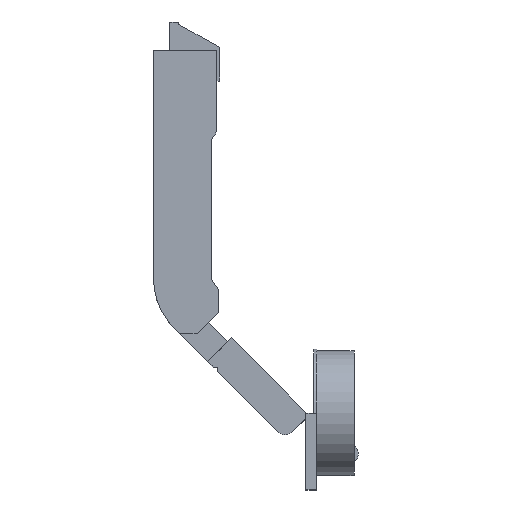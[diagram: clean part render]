
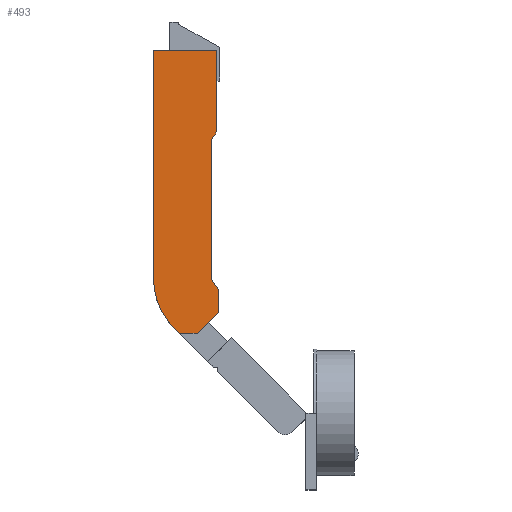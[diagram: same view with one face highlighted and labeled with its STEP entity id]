
A CAD part, top view. The second image highlights one B-rep face of the part: STEP entity #493.
In plain terms, the highlighted planar face has unit normal (0, 0, 1).
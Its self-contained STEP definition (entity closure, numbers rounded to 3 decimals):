
#26 = ORIENTED_EDGE ( 'NONE', *, *, #1369, .F. ) ;
#157 = DIRECTION ( 'NONE',  ( 0.574, -0.819, 0. ) ) ;
#172 = VERTEX_POINT ( 'NONE', #1278 ) ;
#188 = VERTEX_POINT ( 'NONE', #1128 ) ;
#195 = AXIS2_PLACEMENT_3D ( 'NONE', #836, #1638, #1988 ) ;
#204 = EDGE_CURVE ( 'NONE', #172, #1637, #1515, .T. ) ;
#210 = CARTESIAN_POINT ( 'NONE',  ( -14.942, 22.402, 9.15 ) ) ;
#253 = CARTESIAN_POINT ( 'NONE',  ( -6., 37.592, 9.15 ) ) ;
#293 = ORIENTED_EDGE ( 'NONE', *, *, #1250, .F. ) ;
#335 = EDGE_CURVE ( 'NONE', #1540, #674, #1185, .T. ) ;
#427 = CARTESIAN_POINT ( 'NONE',  ( -4.5, 101.894, 9.15 ) ) ;
#457 = EDGE_CURVE ( 'NONE', #615, #2274, #2706, .T. ) ;
#483 = ORIENTED_EDGE ( 'NONE', *, *, #1412, .F. ) ;
#493 = ADVANCED_FACE ( 'NONE', ( #840 ), #1328, .F. ) ;
#594 = DIRECTION ( 'NONE',  ( -0.707, 0.707, 0. ) ) ;
#599 = VERTEX_POINT ( 'NONE', #1784 ) ;
#606 = LINE ( 'NONE', #680, #2796 ) ;
#613 = DIRECTION ( 'NONE',  ( 0., -1., 0. ) ) ;
#615 = VERTEX_POINT ( 'NONE', #1802 ) ;
#625 = ORIENTED_EDGE ( 'NONE', *, *, #1379, .F. ) ;
#674 = VERTEX_POINT ( 'NONE', #852 ) ;
#680 = CARTESIAN_POINT ( 'NONE',  ( -9.992, 22.402, 9.15 ) ) ;
#691 = CARTESIAN_POINT ( 'NONE',  ( -6., 76.894, 9.15 ) ) ;
#768 = CARTESIAN_POINT ( 'NONE',  ( -4.01, 34.75, 9.15 ) ) ;
#807 = VERTEX_POINT ( 'NONE', #768 ) ;
#836 = CARTESIAN_POINT ( 'NONE',  ( -2.25, 37.994, 9.15 ) ) ;
#840 = FACE_OUTER_BOUND ( 'NONE', #2273, .T. ) ;
#852 = CARTESIAN_POINT ( 'NONE',  ( -4.5, 79.036, 9.15 ) ) ;
#931 = DIRECTION ( 'NONE',  ( -0.574, -0.819, 0. ) ) ;
#964 = CARTESIAN_POINT ( 'NONE',  ( -4.5, 79.036, 9.15 ) ) ;
#975 = VECTOR ( 'NONE', #2583, 1000. ) ;
#1071 = ORIENTED_EDGE ( 'NONE', *, *, #335, .F. ) ;
#1128 = CARTESIAN_POINT ( 'NONE',  ( -4.01, 28.384, 9.15 ) ) ;
#1155 = DIRECTION ( 'NONE',  ( 0., -1., 0. ) ) ;
#1185 = LINE ( 'NONE', #964, #1205 ) ;
#1205 = VECTOR ( 'NONE', #613, 1000. ) ;
#1249 = AXIS2_PLACEMENT_3D ( 'NONE', #1521, #1695, #1155 ) ;
#1250 = EDGE_CURVE ( 'NONE', #2041, #172, #2196, .T. ) ;
#1278 = CARTESIAN_POINT ( 'NONE',  ( -16.392, 23.852, 9.15 ) ) ;
#1328 = PLANE ( 'NONE',  #1249 ) ;
#1369 = EDGE_CURVE ( 'NONE', #188, #1377, #1818, .T. ) ;
#1377 = VERTEX_POINT ( 'NONE', #1575 ) ;
#1379 = EDGE_CURVE ( 'NONE', #1377, #2041, #606, .T. ) ;
#1383 = EDGE_CURVE ( 'NONE', #807, #188, #2010, .T. ) ;
#1388 = DIRECTION ( 'NONE',  ( 0., -1., 0. ) ) ;
#1389 = EDGE_CURVE ( 'NONE', #2274, #807, #2723, .T. ) ;
#1400 = CARTESIAN_POINT ( 'NONE',  ( -22.25, 37.994, 9.15 ) ) ;
#1406 = EDGE_CURVE ( 'NONE', #674, #615, #2007, .T. ) ;
#1411 = EDGE_CURVE ( 'NONE', #599, #1540, #2003, .T. ) ;
#1412 = EDGE_CURVE ( 'NONE', #1637, #599, #1801, .T. ) ;
#1515 = CIRCLE ( 'NONE', #195, 20. ) ;
#1521 = CARTESIAN_POINT ( 'NONE',  ( -2.25, 37.994, 9.15 ) ) ;
#1540 = VERTEX_POINT ( 'NONE', #427 ) ;
#1575 = CARTESIAN_POINT ( 'NONE',  ( -9.992, 22.402, 9.15 ) ) ;
#1590 = DIRECTION ( 'NONE',  ( 0., 1., 0. ) ) ;
#1602 = ORIENTED_EDGE ( 'NONE', *, *, #457, .F. ) ;
#1637 = VERTEX_POINT ( 'NONE', #2595 ) ;
#1638 = DIRECTION ( 'NONE',  ( 0., 0., -1. ) ) ;
#1676 = ORIENTED_EDGE ( 'NONE', *, *, #1383, .F. ) ;
#1695 = DIRECTION ( 'NONE',  ( 0., 0., -1. ) ) ;
#1747 = ORIENTED_EDGE ( 'NONE', *, *, #1389, .F. ) ;
#1784 = CARTESIAN_POINT ( 'NONE',  ( -22.25, 101.894, 9.15 ) ) ;
#1801 = LINE ( 'NONE', #1400, #1994 ) ;
#1802 = CARTESIAN_POINT ( 'NONE',  ( -6., 76.894, 9.15 ) ) ;
#1818 = LINE ( 'NONE', #1943, #2014 ) ;
#1839 = VECTOR ( 'NONE', #594, 1000. ) ;
#1895 = ORIENTED_EDGE ( 'NONE', *, *, #204, .F. ) ;
#1943 = CARTESIAN_POINT ( 'NONE',  ( -4.01, 28.384, 9.15 ) ) ;
#1955 = ORIENTED_EDGE ( 'NONE', *, *, #1411, .F. ) ;
#1988 = DIRECTION ( 'NONE',  ( 0., -1., 0. ) ) ;
#1992 = CARTESIAN_POINT ( 'NONE',  ( -6., 37.592, 9.15 ) ) ;
#1994 = VECTOR ( 'NONE', #1590, 1000. ) ;
#2001 = VECTOR ( 'NONE', #931, 1000. ) ;
#2003 = LINE ( 'NONE', #2370, #975 ) ;
#2004 = VECTOR ( 'NONE', #157, 1000. ) ;
#2007 = LINE ( 'NONE', #691, #2001 ) ;
#2008 = VECTOR ( 'NONE', #1388, 1000. ) ;
#2010 = LINE ( 'NONE', #2562, #2008 ) ;
#2014 = VECTOR ( 'NONE', #2143, 1000. ) ;
#2041 = VERTEX_POINT ( 'NONE', #210 ) ;
#2143 = DIRECTION ( 'NONE',  ( -0.707, -0.707, 0. ) ) ;
#2196 = LINE ( 'NONE', #2711, #1839 ) ;
#2273 = EDGE_LOOP ( 'NONE', ( #293, #625, #26, #1676, #1747, #1602, #2330, #1071, #1955, #483, #1895 ) ) ;
#2274 = VERTEX_POINT ( 'NONE', #1992 ) ;
#2330 = ORIENTED_EDGE ( 'NONE', *, *, #1406, .F. ) ;
#2360 = DIRECTION ( 'NONE',  ( -1., 0., 0. ) ) ;
#2370 = CARTESIAN_POINT ( 'NONE',  ( -22.25, 101.894, 9.15 ) ) ;
#2562 = CARTESIAN_POINT ( 'NONE',  ( -4.01, 28.384, 9.15 ) ) ;
#2583 = DIRECTION ( 'NONE',  ( 1., 0., 0. ) ) ;
#2595 = CARTESIAN_POINT ( 'NONE',  ( -22.25, 37.994, 9.15 ) ) ;
#2682 = VECTOR ( 'NONE', #2788, 1000. ) ;
#2706 = LINE ( 'NONE', #253, #2682 ) ;
#2711 = CARTESIAN_POINT ( 'NONE',  ( -5.502, 12.962, 9.15 ) ) ;
#2723 = LINE ( 'NONE', #2787, #2004 ) ;
#2787 = CARTESIAN_POINT ( 'NONE',  ( -4.01, 34.75, 9.15 ) ) ;
#2788 = DIRECTION ( 'NONE',  ( 0., -1., 0. ) ) ;
#2796 = VECTOR ( 'NONE', #2360, 1000. ) ;
